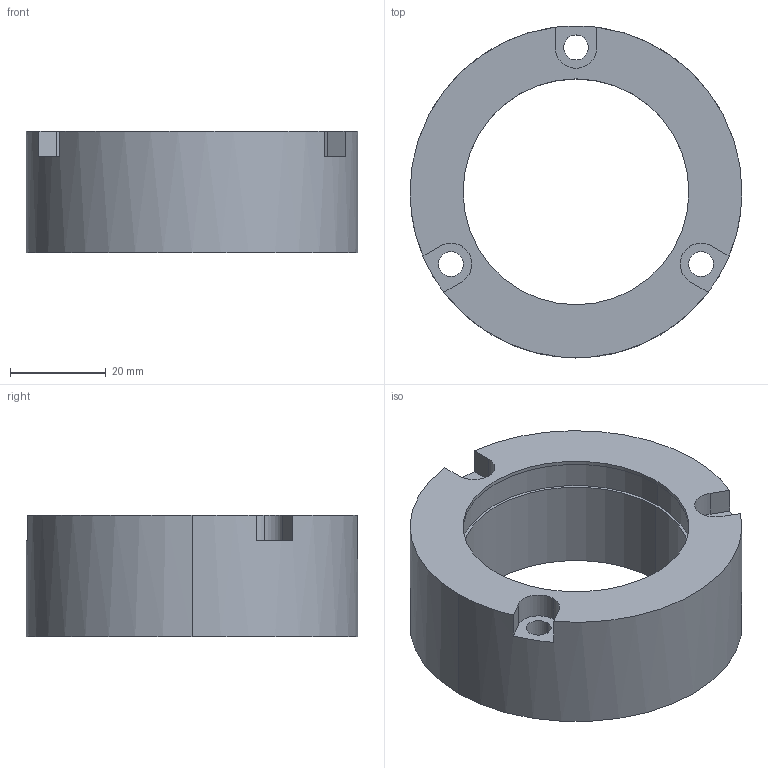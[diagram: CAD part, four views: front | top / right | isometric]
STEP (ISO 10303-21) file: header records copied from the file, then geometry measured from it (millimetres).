
FILE_DESCRIPTION (( 'STEP AP214' ), '1' );
FILE_NAME ('BTQ-38-S.STEP', '2017-03-22T18:32:32', ( '' ), ( '' ), 'SwSTEP 2.0', 'SolidWorks 2017', '' );
FILE_SCHEMA (( 'AUTOMOTIVE_DESIGN' ));
Length unit declared in the file: inch
Products named in the file (1): BTQ-38-S
Bounding box: 69.34 x 69.34 x 25.4 mm (x, y, z)
Volume: 48110.5 mm3; surface area: 15168.8 mm2
Topology: 1 solids, 1 shells, 37 faces, 93 edges, 62 vertices
Faces by surface type: cylinder 22, plane 15
Entity records: 1193 total; most frequent: DIRECTION 219, CARTESIAN_POINT 193, ORIENTED_EDGE 186, EDGE_CURVE 93, AXIS2_PLACEMENT_3D 88, VERTEX_POINT 62, CIRCLE 50, EDGE_LOOP 49
